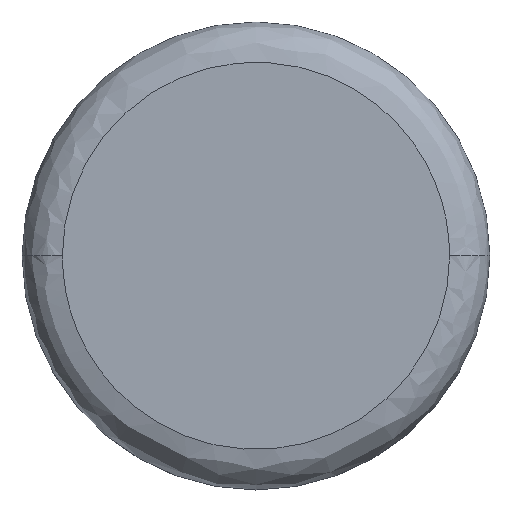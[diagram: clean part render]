
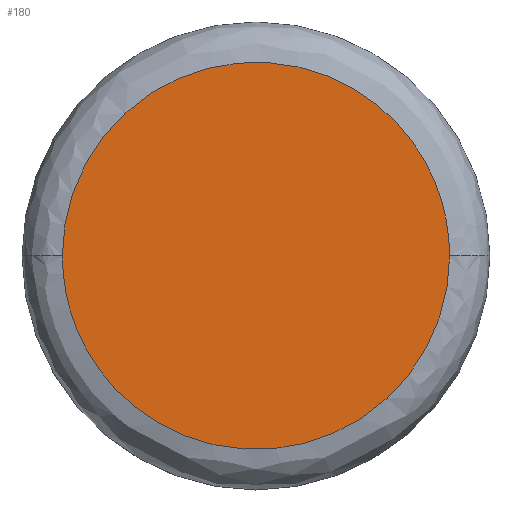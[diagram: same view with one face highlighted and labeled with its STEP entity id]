
A CAD part, top view. The second image highlights one B-rep face of the part: STEP entity #180.
In plain terms, the highlighted planar face has unit normal (0, 0, 1).
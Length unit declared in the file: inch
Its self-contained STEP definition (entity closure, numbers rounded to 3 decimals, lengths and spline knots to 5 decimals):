
#103 = EDGE_CURVE ( 'NONE', #566, #563, #148, .T. ) ;
#148 =( BOUNDED_CURVE ( )  B_SPLINE_CURVE ( 3, ( #1359, #1358, #1357, #1350 ),
 .UNSPECIFIED., .F., .F. ) 
 B_SPLINE_CURVE_WITH_KNOTS ( ( 4, 4 ),
 ( 0.5, 1. ),
 .UNSPECIFIED. ) 
 CURVE ( )  GEOMETRIC_REPRESENTATION_ITEM ( )  RATIONAL_B_SPLINE_CURVE ( ( 1., 0.333, 0.333, 1. ) ) 
 REPRESENTATION_ITEM ( '' )  );
#163 =( BOUNDED_CURVE ( )  B_SPLINE_CURVE ( 3, ( #616, #824, #613, #818 ),
 .UNSPECIFIED., .F., .T. ) 
 B_SPLINE_CURVE_WITH_KNOTS ( ( 4, 4 ),
 ( 0., 0.5 ),
 .UNSPECIFIED. ) 
 CURVE ( )  GEOMETRIC_REPRESENTATION_ITEM ( )  RATIONAL_B_SPLINE_CURVE ( ( 1., 0.333, 0.333, 1. ) ) 
 REPRESENTATION_ITEM ( '' )  );
#180 = ADVANCED_FACE ( 'NONE', ( #1326 ), #1339, .T. ) ;
#269 = EDGE_CURVE ( 'NONE', #563, #566, #163, .T. ) ;
#278 = EDGE_LOOP ( 'NONE', ( #325, #324 ) ) ;
#324 = ORIENTED_EDGE ( 'NONE', *, *, #103, .F. ) ;
#325 = ORIENTED_EDGE ( 'NONE', *, *, #269, .F. ) ;
#563 = VERTEX_POINT ( 'NONE', #836 ) ;
#566 = VERTEX_POINT ( 'NONE', #648 ) ;
#613 = CARTESIAN_POINT ( 'NONE',  ( -0.94488, -1.88976, 0.66142 ) ) ;
#616 = CARTESIAN_POINT ( 'NONE',  ( 0.94488, 0., 0.66142 ) ) ;
#648 = CARTESIAN_POINT ( 'NONE',  ( -0.94488, 0., 0.66142 ) ) ;
#818 = CARTESIAN_POINT ( 'NONE',  ( -0.94488, 0., 0.66142 ) ) ;
#824 = CARTESIAN_POINT ( 'NONE',  ( 0.94488, -1.88976, 0.66142 ) ) ;
#836 = CARTESIAN_POINT ( 'NONE',  ( 0.94488, 0., 0.66142 ) ) ;
#998 = AXIS2_PLACEMENT_3D ( 'NONE', #1336, #1174, #1173 ) ;
#1173 = DIRECTION ( 'NONE',  ( 1., 0., 0. ) ) ;
#1174 = DIRECTION ( 'NONE',  ( 0., 0., 1. ) ) ;
#1326 = FACE_OUTER_BOUND ( 'NONE', #278, .T. ) ;
#1336 = CARTESIAN_POINT ( 'NONE',  ( 0.47244, 0., 0.66142 ) ) ;
#1339 = PLANE ( 'NONE',  #998 ) ;
#1350 = CARTESIAN_POINT ( 'NONE',  ( 0.94488, 0., 0.66142 ) ) ;
#1357 = CARTESIAN_POINT ( 'NONE',  ( 0.94488, 1.88976, 0.66142 ) ) ;
#1358 = CARTESIAN_POINT ( 'NONE',  ( -0.94488, 1.88976, 0.66142 ) ) ;
#1359 = CARTESIAN_POINT ( 'NONE',  ( -0.94488, 0., 0.66142 ) ) ;
